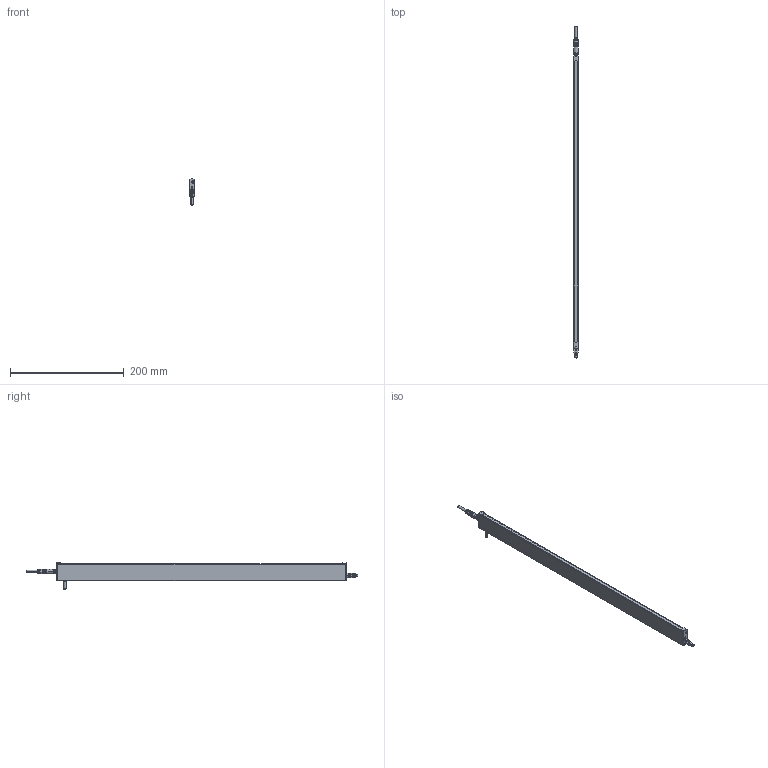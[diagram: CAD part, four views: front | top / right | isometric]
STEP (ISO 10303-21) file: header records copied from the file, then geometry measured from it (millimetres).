
FILE_DESCRIPTION (( 'STEP AP214' ), '1' );
FILE_NAME ('ILG-B-K2-0510mm.STEP', '2017-07-10T12:39:15', ( '' ), ( '' ), 'SwSTEP 2.0', 'SolidWorks 2016', '' );
FILE_SCHEMA (( 'AUTOMOTIVE_DESIGN' ));
Length unit declared in the file: millimetre
Products named in the file (1): ILG-B-K2-0510mm
Bounding box: 9 x 583.5 x 46.21 mm (x, y, z)
Surface area: 89231 mm2 (no closed solid volume)
Topology: 0 solids, 14 shells, 693 faces, 1806 edges, 1147 vertices
Faces by surface type: cylinder 283, plane 263, cone 97, bspline 32, torus 18
Entity records: 31061 total; most frequent: CARTESIAN_POINT 6596, ORIENTED_EDGE 3565, DIRECTION 3444, EDGE_CURVE 1790, AXIS2_PLACEMENT_3D 1323, VERTEX_POINT 1147, LINE 798, VECTOR 798
